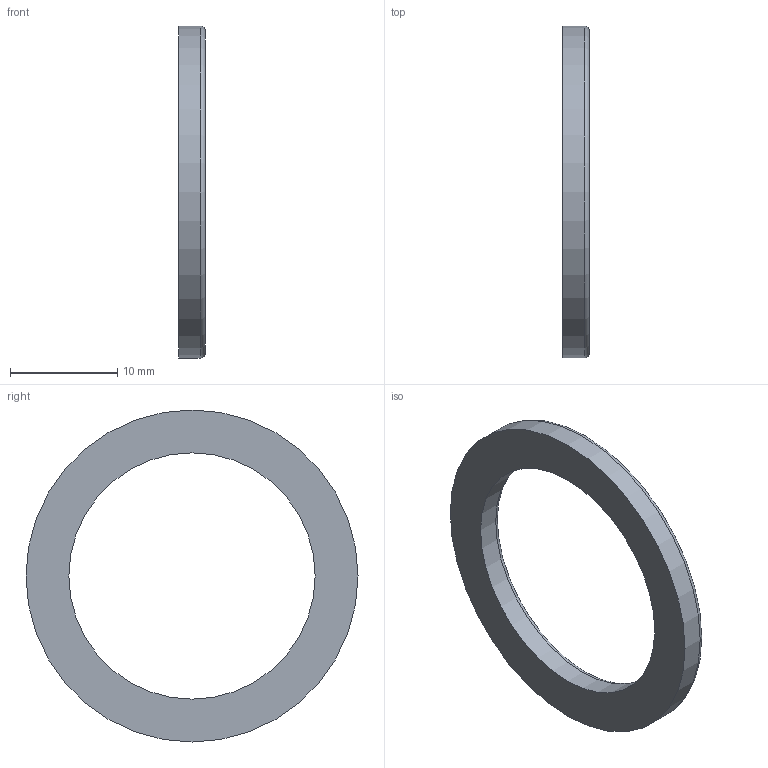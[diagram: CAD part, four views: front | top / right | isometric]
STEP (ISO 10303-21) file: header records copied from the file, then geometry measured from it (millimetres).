
FILE_DESCRIPTION(('Open CASCADE Model'),'2;1');
FILE_NAME('Open CASCADE Shape Model','2026-11-01T16:33:35',('Author'),( 'Open CASCADE'),'Open CASCADE STEP processor 8.0','build123d', 'Unknown');
FILE_SCHEMA(('AUTOMOTIVE_DESIGN { 1 0 10303 214 1 1 1 1 }'));
Length unit declared in the file: millimetre
Products named in the file (1): COMPOUND
Bounding box: 2.5 x 31 x 31 mm (x, y, z)
Volume: 839.1 mm3; surface area: 1066.3 mm2
Topology: 1 solids, 1 shells, 6 faces, 10 edges, 6 vertices
Faces by surface type: cylinder 2, torus 2, plane 2
Full cylindrical faces by diameter (mm): 23 x1, 31 x1
Entity records: 286 total; most frequent: DIRECTION 48, CARTESIAN_POINT 47, ORIENTED_EDGE 20, PCURVE 20, DEFINITIONAL_REPRESENTATION 20, AXIS2_PLACEMENT_3D 15, LINE 14, VECTOR 14
